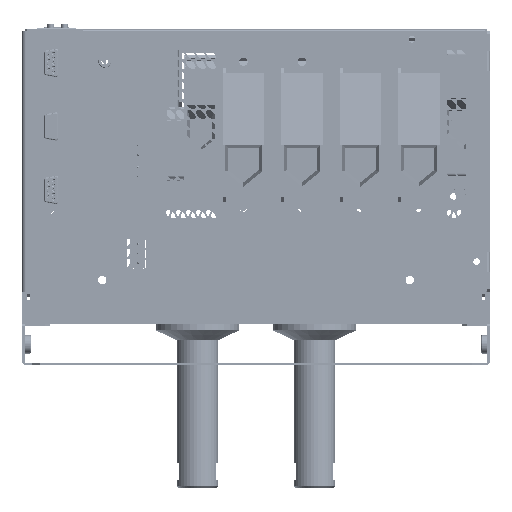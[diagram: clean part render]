
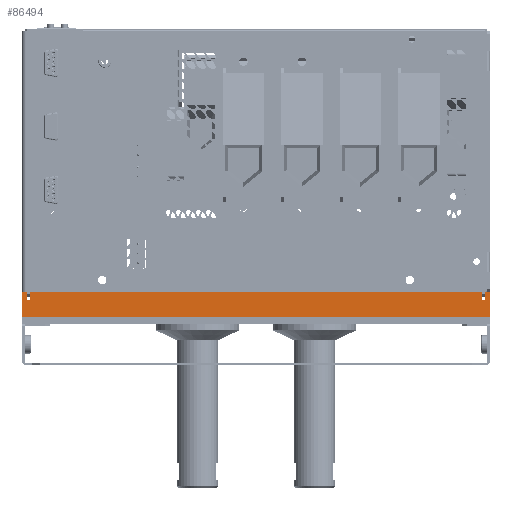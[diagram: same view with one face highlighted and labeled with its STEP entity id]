
A CAD part, front view. The second image highlights one B-rep face of the part: STEP entity #86494.
In plain terms, the highlighted planar face has unit normal (0, -1, 0).
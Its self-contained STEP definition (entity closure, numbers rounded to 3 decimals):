
#76042=PLANE('',#268881);
#86494=ADVANCED_FACE('',(#98423),#76042,.F.);
#98423=FACE_OUTER_BOUND('',#111681,.T.);
#111681=EDGE_LOOP('',(#206016,#206017,#206018,#206019,#206020,#206021,#206022,
#206023,#206024,#206025,#206026,#206027));
#131565=LINE('',#419697,#152081);
#131573=LINE('',#419745,#152089);
#131577=LINE('',#419799,#152093);
#131583=LINE('',#419812,#152099);
#131585=LINE('',#419815,#152101);
#131587=LINE('',#419818,#152103);
#131594=LINE('',#419869,#152110);
#131595=LINE('',#419871,#152111);
#131596=LINE('',#419873,#152112);
#131597=LINE('',#419874,#152113);
#131598=LINE('',#419876,#152114);
#131599=LINE('',#419878,#152115);
#152081=VECTOR('',#309394,1.);
#152089=VECTOR('',#309458,1.);
#152093=VECTOR('',#309554,1.);
#152099=VECTOR('',#309562,1.);
#152101=VECTOR('',#309566,1.);
#152103=VECTOR('',#309570,1.);
#152110=VECTOR('',#309657,1.);
#152111=VECTOR('',#309658,1.);
#152112=VECTOR('',#309659,1.);
#152113=VECTOR('',#309660,1.);
#152114=VECTOR('',#309661,1.);
#152115=VECTOR('',#309662,1.);
#206016=ORIENTED_EDGE('',*,*,#254010,.T.);
#206017=ORIENTED_EDGE('',*,*,#254111,.T.);
#206018=ORIENTED_EDGE('',*,*,#254112,.T.);
#206019=ORIENTED_EDGE('',*,*,#254113,.T.);
#206020=ORIENTED_EDGE('',*,*,#254100,.T.);
#206021=ORIENTED_EDGE('',*,*,#254104,.F.);
#206022=ORIENTED_EDGE('',*,*,#254045,.F.);
#206023=ORIENTED_EDGE('',*,*,#254102,.T.);
#206024=ORIENTED_EDGE('',*,*,#254094,.T.);
#206025=ORIENTED_EDGE('',*,*,#254114,.T.);
#206026=ORIENTED_EDGE('',*,*,#254115,.T.);
#206027=ORIENTED_EDGE('',*,*,#254116,.T.);
#226708=VERTEX_POINT('',#419695);
#226710=VERTEX_POINT('',#419698);
#226720=VERTEX_POINT('',#419743);
#226722=VERTEX_POINT('',#419746);
#226724=VERTEX_POINT('',#419797);
#226726=VERTEX_POINT('',#419800);
#226728=VERTEX_POINT('',#419806);
#226731=VERTEX_POINT('',#419811);
#226736=VERTEX_POINT('',#419870);
#226737=VERTEX_POINT('',#419872);
#226738=VERTEX_POINT('',#419875);
#226739=VERTEX_POINT('',#419877);
#254010=EDGE_CURVE('',#226710,#226708,#131565,.T.);
#254045=EDGE_CURVE('',#226720,#226722,#131573,.T.);
#254094=EDGE_CURVE('',#226726,#226724,#131577,.T.);
#254100=EDGE_CURVE('',#226728,#226731,#131583,.T.);
#254102=EDGE_CURVE('',#226720,#226726,#131585,.T.);
#254104=EDGE_CURVE('',#226722,#226731,#131587,.T.);
#254111=EDGE_CURVE('',#226708,#226736,#131594,.T.);
#254112=EDGE_CURVE('',#226736,#226737,#131595,.T.);
#254113=EDGE_CURVE('',#226737,#226728,#131596,.T.);
#254114=EDGE_CURVE('',#226724,#226738,#131597,.T.);
#254115=EDGE_CURVE('',#226738,#226739,#131598,.T.);
#254116=EDGE_CURVE('',#226739,#226710,#131599,.T.);
#268881=AXIS2_PLACEMENT_3D('',#419879,#309663,#309664);
#309394=DIRECTION('',(-1.,0.,0.));
#309458=DIRECTION('',(-1.,0.,0.));
#309554=DIRECTION('',(-1.,0.,0.));
#309562=DIRECTION('',(-1.,0.,0.));
#309566=DIRECTION('',(0.,0.,1.));
#309570=DIRECTION('',(0.,0.,1.));
#309657=DIRECTION('',(0.,0.,-1.));
#309658=DIRECTION('',(-1.,0.,0.));
#309659=DIRECTION('',(0.,0.,1.));
#309660=DIRECTION('',(0.,0.,-1.));
#309661=DIRECTION('',(-1.,0.,0.));
#309662=DIRECTION('',(0.,0.,1.));
#309663=DIRECTION('',(0.,1.,0.));
#309664=DIRECTION('',(0.,0.,1.));
#419695=CARTESIAN_POINT('',(-107.503,-262.501,7.5));
#419697=CARTESIAN_POINT('',(-112.253,-262.501,7.5));
#419698=CARTESIAN_POINT('',(162.997,-262.501,7.5));
#419743=CARTESIAN_POINT('',(167.747,-262.501,-7.5));
#419745=CARTESIAN_POINT('',(-142.253,-262.501,-7.5));
#419746=CARTESIAN_POINT('',(-112.253,-262.501,-7.5));
#419797=CARTESIAN_POINT('',(164.997,-262.501,7.5));
#419799=CARTESIAN_POINT('',(-112.253,-262.501,7.5));
#419800=CARTESIAN_POINT('',(167.747,-262.501,7.5));
#419806=CARTESIAN_POINT('',(-109.503,-262.501,7.5));
#419811=CARTESIAN_POINT('',(-112.253,-262.501,7.5));
#419812=CARTESIAN_POINT('',(-112.253,-262.501,7.5));
#419815=CARTESIAN_POINT('',(167.747,-262.501,-17.5));
#419818=CARTESIAN_POINT('',(-112.253,-262.501,-17.5));
#419869=CARTESIAN_POINT('',(-107.503,-262.501,7.5));
#419870=CARTESIAN_POINT('',(-107.503,-262.501,2.5));
#419871=CARTESIAN_POINT('',(-107.503,-262.501,2.5));
#419872=CARTESIAN_POINT('',(-109.503,-262.501,2.5));
#419873=CARTESIAN_POINT('',(-109.503,-262.501,7.5));
#419874=CARTESIAN_POINT('',(164.997,-262.501,7.5));
#419875=CARTESIAN_POINT('',(164.997,-262.501,2.5));
#419876=CARTESIAN_POINT('',(164.997,-262.501,2.5));
#419877=CARTESIAN_POINT('',(162.997,-262.501,2.5));
#419878=CARTESIAN_POINT('',(162.997,-262.501,7.5));
#419879=CARTESIAN_POINT('',(-112.253,-262.501,-17.5));
